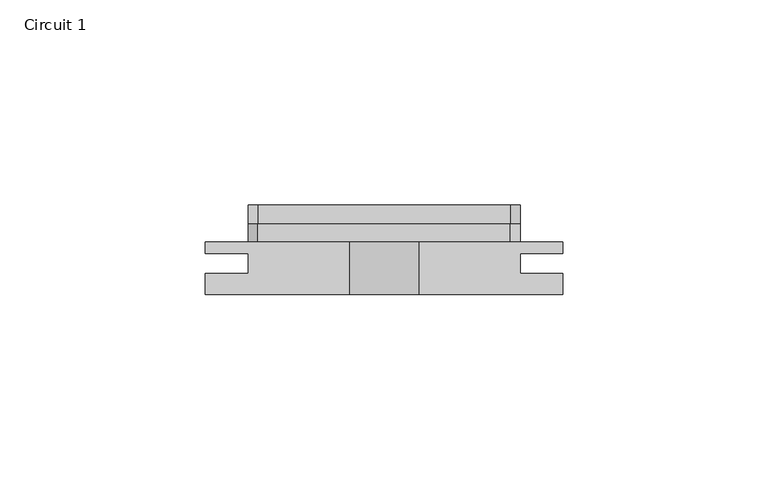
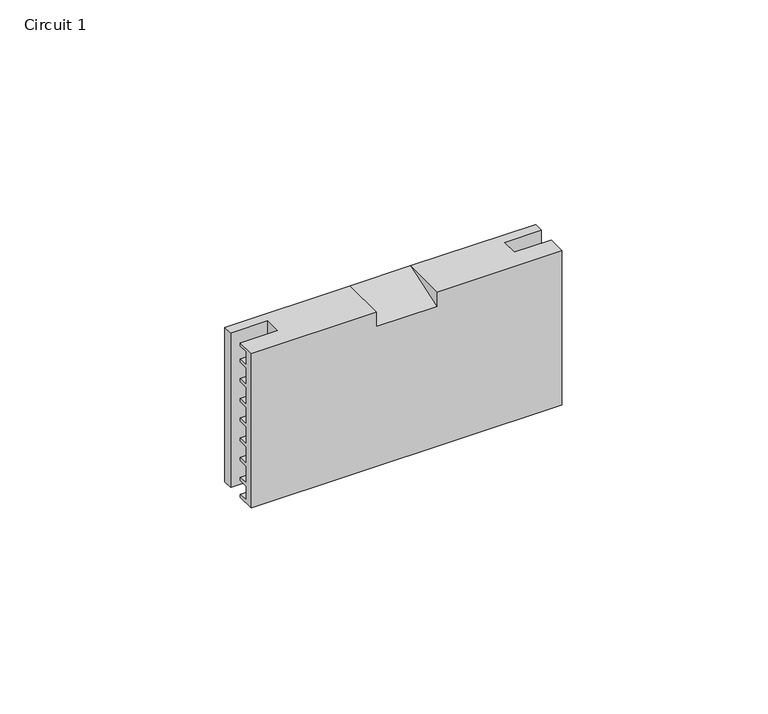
"""IFC4 building model written with IfcOpenShell, lengths in millimetres: furniture geometry, HON - Systems - Accelerate Duplex Receptacles : Circuit 1."""

from ifc_helpers import new_model, si_unit, frame, origin, place, context, project, spatial, polyline, circle_curve, faceted_brep, source, transform, mapped, element, save
from ifc_brep_helpers import plane_surface, cylinder_surface, revolved_surface, advanced_brep


def circuit_1_12633536(model_context):
    return source(origin(), model_context, "Body", "SolidModel", [
        faceted_brep([(43.4462126, 14.2112998, 675.3605936), (33.1343011, 14.2112998, 675.3605936), (33.1343011, 19.0372998, 675.3605936), (43.4462126, 19.0372998, 675.3605936), (43.4462126, 21.7928028, 675.3605936), (8.5470999, 21.7928028, 675.3605936), (8.5470999, 9.0804999, 675.3605936), (43.4462126, 9.0804999, 675.3605936), (-43.5229021, 9.0804999, 675.3605936), (-8.5217, 9.0804999, 675.3605936), (-8.5217, 21.7928028, 675.3605936), (-43.5229021, 21.7928028, 675.3605936), (-43.5229021, 19.0372998, 675.3605936), (-33.1343011, 19.0372998, 675.3605936), (-33.1343011, 14.2112998, 675.3605936), (-43.5229021, 14.2112998, 675.3605936), (43.4462126, 21.7928028, 629.6405645), (43.4462126, 19.0372998, 629.6405645), (33.1343011, 19.0372998, 629.6405645), (33.1343011, 14.2112998, 629.6405645), (43.4462126, 14.2112998, 629.6405645), (43.4462126, 9.0804999, 629.6405645), (-43.5229021, 9.0804999, 629.6405645), (-43.5229021, 14.2112998, 629.6405645), (-33.1343011, 14.2112998, 629.6405645), (-33.1343011, 19.0372998, 629.6405645), (-43.5229021, 19.0372998, 629.6405645), (-43.5229021, 21.7928028, 629.6405645), (8.5470999, 9.0804999, 670.9933456), (-8.5217, 9.0804999, 670.9933456), (-43.5229021, 14.2112998, 674.4716217), (-43.5229021, 11.3665005, 674.4716217), (-43.5229021, 11.3665005, 670.5980936), (-43.5229021, 14.2112998, 670.5980936), (-43.5229021, 14.2112998, 669.7091217), (-43.5229021, 11.3665005, 669.7091217), (-43.5229021, 11.3665005, 664.756081), (-43.5229021, 14.2112998, 664.756081), (-43.5229021, 14.2112998, 663.8671091), (-43.5229021, 11.3665005, 663.8671091), (-43.5229021, 11.3665005, 658.9140684), (-43.5229021, 14.2112998, 658.9140684), (-43.5229021, 14.2112998, 658.0250965), (-43.5229021, 11.3665005, 658.0250965), (-43.5229021, 11.3665005, 653.0721285), (-43.5229021, 14.2112998, 653.0721285), (-43.5229021, 14.2112998, 652.1830839), (-43.5229021, 11.3665005, 652.1830839), (-43.5229021, 11.3665005, 647.2301159), (-43.5229021, 14.2112998, 647.2301159), (-43.5229021, 14.2112998, 646.3410713), (-43.5229021, 11.3665005, 646.3410713), (-43.5229021, 11.3665005, 641.3881033), (-43.5229021, 14.2112998, 641.3881033), (-43.5229021, 14.2112998, 640.4991314), (-43.5229021, 11.3665005, 640.4991314), (-43.5229021, 11.3665005, 635.5460907), (-43.5229021, 14.2112998, 635.5460907), (-43.5229021, 14.2112998, 634.6571188), (-43.5229021, 11.3665005, 634.6571188), (-43.5229021, 11.3665005, 630.5296091), (-43.5229021, 14.2112998, 630.5296091), (43.4462126, 14.2112998, 630.5296091), (43.4462126, 11.3665005, 630.5296091), (43.4462126, 11.3665005, 634.6571188), (43.4462126, 14.2112998, 634.6571188), (43.4462126, 14.2112998, 635.5460907), (43.4462126, 11.3665005, 635.5460907), (43.4462126, 11.3665005, 640.4991314), (43.4462126, 14.2112998, 640.4991314), (43.4462126, 14.2112998, 641.3881033), (43.4462126, 11.3665005, 641.3881033), (43.4462126, 11.3665005, 646.3410713), (43.4462126, 14.2112998, 646.3410713), (43.4462126, 14.2112998, 647.2301159), (43.4462126, 11.3665005, 647.2301159), (43.4462126, 11.3665005, 652.1830839), (43.4462126, 14.2112998, 652.1830839), (43.4462126, 14.2112998, 653.0721285), (43.4462126, 11.3665005, 653.0721285), (43.4462126, 11.3665005, 658.0250965), (43.4462126, 14.2112998, 658.0250965), (43.4462126, 14.2112998, 658.9140684), (43.4462126, 11.3665005, 658.9140684), (43.4462126, 11.3665005, 663.8671091), (43.4462126, 14.2112998, 663.8671091), (43.4462126, 14.2112998, 664.756081), (43.4462126, 11.3665005, 664.756081), (43.4462126, 11.3665005, 669.7091217), (43.4462126, 14.2112998, 669.7091217), (43.4462126, 14.2112998, 670.5980936), (43.4462126, 11.3665005, 670.5980936), (43.4462126, 11.3665005, 674.4716217), (43.4462126, 14.2112998, 674.4716217), (33.1343011, 14.2112998, 630.5296091), (33.1343011, 14.2112998, 674.4716217), (33.1343011, 11.3665005, 674.4716217), (33.1343011, 11.3665005, 670.5980936), (33.1343011, 14.2112998, 670.5980936), (33.1343011, 14.2112998, 669.7091217), (33.1343011, 11.3665005, 669.7091217), (33.1343011, 11.3665005, 664.756081), (33.1343011, 14.2112998, 664.756081), (33.1343011, 14.2112998, 663.8671091), (33.1343011, 11.3665005, 663.8671091), (33.1343011, 11.3665005, 658.9140684), (33.1343011, 14.2112998, 658.9140684), (33.1343011, 14.2112998, 658.0250965), (33.1343011, 11.3665005, 658.0250965), (33.1343011, 11.3665005, 653.0721285), (33.1343011, 14.2112998, 653.0721285), (33.1343011, 14.2112998, 652.1830839), (33.1343011, 11.3665005, 652.1830839), (33.1343011, 11.3665005, 647.2301159), (33.1343011, 14.2112998, 647.2301159), (33.1343011, 14.2112998, 646.3410713), (33.1343011, 11.3665005, 646.3410713), (33.1343011, 11.3665005, 641.3881033), (33.1343011, 14.2112998, 641.3881033), (33.1343011, 14.2112998, 640.4991314), (33.1343011, 11.3665005, 640.4991314), (33.1343011, 11.3665005, 635.5460907), (33.1343011, 14.2112998, 635.5460907), (33.1343011, 14.2112998, 634.6571188), (33.1343011, 11.3665005, 634.6571188), (33.1343011, 11.3665005, 630.5296091), (-33.1343011, 14.2112998, 674.4716217), (-33.1343011, 14.2112998, 630.5296091), (-33.1343011, 11.3665005, 630.5296091), (-33.1343011, 11.3665005, 634.6571188), (-33.1343011, 14.2112998, 634.6571188), (-33.1343011, 14.2112998, 635.5460907), (-33.1343011, 11.3665005, 635.5460907), (-33.1343011, 11.3665005, 640.4991314), (-33.1343011, 14.2112998, 640.4991314), (-33.1343011, 14.2112998, 641.3881033), (-33.1343011, 11.3665005, 641.3881033), (-33.1343011, 11.3665005, 646.3410713), (-33.1343011, 14.2112998, 646.3410713), (-33.1343011, 14.2112998, 647.2301159), (-33.1343011, 11.3665005, 647.2301159), (-33.1343011, 11.3665005, 652.1830839), (-33.1343011, 14.2112998, 652.1830839), (-33.1343011, 14.2112998, 653.0721285), (-33.1343011, 11.3665005, 653.0721285), (-33.1343011, 11.3665005, 658.0250965), (-33.1343011, 14.2112998, 658.0250965), (-33.1343011, 14.2112998, 658.9140684), (-33.1343011, 11.3665005, 658.9140684), (-33.1343011, 11.3665005, 663.8671091), (-33.1343011, 14.2112998, 663.8671091), (-33.1343011, 14.2112998, 664.756081), (-33.1343011, 11.3665005, 664.756081), (-33.1343011, 11.3665005, 669.7091217), (-33.1343011, 14.2112998, 669.7091217), (-33.1343011, 14.2112998, 670.5980936), (-33.1343011, 11.3665005, 670.5980936), (-33.1343011, 11.3665005, 674.4716217)], [[[0, 1, 2, 3, 4, 5, 6, 7]], [[8, 9, 10, 11, 12, 13, 14, 15]], [[16, 17, 18, 19, 20, 21, 22, 23, 24, 25, 26, 27]], [[21, 7, 6, 28, 29, 9, 8, 22]], [[8, 15, 30, 31, 32, 33, 34, 35, 36, 37, 38, 39, 40, 41, 42, 43, 44, 45, 46, 47, 48, 49, 50, 51, 52, 53, 54, 55, 56, 57, 58, 59, 60, 61, 23, 22]], [[27, 26, 12, 11]], [[27, 11, 10, 5, 4, 16]], [[4, 3, 17, 16]], [[21, 20, 62, 63, 64, 65, 66, 67, 68, 69, 70, 71, 72, 73, 74, 75, 76, 77, 78, 79, 80, 81, 82, 83, 84, 85, 86, 87, 88, 89, 90, 91, 92, 93, 0, 7]], [[94, 19, 18, 2, 1, 95, 96, 97, 98, 99, 100, 101, 102, 103, 104, 105, 106, 107, 108, 109, 110, 111, 112, 113, 114, 115, 116, 117, 118, 119, 120, 121, 122, 123, 124, 125]], [[94, 62, 20, 19]], [[125, 63, 62, 94]], [[124, 64, 63, 125]], [[123, 65, 64, 124]], [[122, 66, 65, 123]], [[121, 67, 66, 122]], [[120, 68, 67, 121]], [[119, 69, 68, 120]], [[118, 70, 69, 119]], [[117, 71, 70, 118]], [[116, 72, 71, 117]], [[115, 73, 72, 116]], [[114, 74, 73, 115]], [[113, 75, 74, 114]], [[112, 76, 75, 113]], [[111, 77, 76, 112]], [[110, 78, 77, 111]], [[109, 79, 78, 110]], [[108, 80, 79, 109]], [[107, 81, 80, 108]], [[106, 82, 81, 107]], [[105, 83, 82, 106]], [[104, 84, 83, 105]], [[103, 85, 84, 104]], [[102, 86, 85, 103]], [[101, 87, 86, 102]], [[100, 88, 87, 101]], [[99, 89, 88, 100]], [[98, 90, 89, 99]], [[97, 91, 90, 98]], [[96, 92, 91, 97]], [[95, 93, 92, 96]], [[1, 0, 93, 95]], [[18, 17, 3, 2]], [[126, 14, 13, 25, 24, 127, 128, 129, 130, 131, 132, 133, 134, 135, 136, 137, 138, 139, 140, 141, 142, 143, 144, 145, 146, 147, 148, 149, 150, 151, 152, 153, 154, 155, 156, 157]], [[24, 23, 61, 127]], [[127, 61, 60, 128]], [[128, 60, 59, 129]], [[129, 59, 58, 130]], [[130, 58, 57, 131]], [[131, 57, 56, 132]], [[132, 56, 55, 133]], [[133, 55, 54, 134]], [[134, 54, 53, 135]], [[135, 53, 52, 136]], [[136, 52, 51, 137]], [[137, 51, 50, 138]], [[138, 50, 49, 139]], [[139, 49, 48, 140]], [[140, 48, 47, 141]], [[141, 47, 46, 142]], [[142, 46, 45, 143]], [[143, 45, 44, 144]], [[144, 44, 43, 145]], [[145, 43, 42, 146]], [[146, 42, 41, 147]], [[147, 41, 40, 148]], [[148, 40, 39, 149]], [[149, 39, 38, 150]], [[150, 38, 37, 151]], [[151, 37, 36, 152]], [[152, 36, 35, 153]], [[153, 35, 34, 154]], [[154, 34, 33, 155]], [[155, 33, 32, 156]], [[156, 32, 31, 157]], [[157, 31, 30, 126]], [[126, 30, 15, 14]], [[13, 12, 26, 25]], [[28, 6, 5]], [[10, 9, 29]], [[5, 10, 29, 28]]]),
        advanced_brep(
        [(33.1343011, 30.7975002, 635.4825976), (30.848301, 30.7975002, 633.1965975), (-30.8229006, 30.7975002, 633.1965975), (-33.1089007, 30.7975002, 635.4825976), (-33.1089007, 30.7975002, 663.4987972), (-30.8229006, 30.7975002, 665.7847973), (30.848301, 30.7975002, 665.7847973), (33.1343011, 30.7975002, 663.4987972), (-17.6657004, 30.7975002, 657.0218147), (-24.7777004, 30.7975002, 657.0218147), (-24.7777004, 30.7975002, 654.4817808), (-17.6657004, 30.7975002, 654.4817808), (-17.6657004, 30.7975002, 644.499614), (-26.555701, 30.7975002, 644.499614), (-26.555701, 30.7975002, 641.95958), (-17.6657004, 30.7975002, 641.95958), (20.4342996, 30.7975002, 644.499614), (11.5443001, 30.7975002, 644.499614), (11.5443001, 30.7975002, 641.95958), (20.4342996, 30.7975002, 641.95958), (20.4342996, 30.7975002, 657.0218147), (13.3222996, 30.7975002, 657.0218147), (13.3222996, 30.7975002, 654.4817808), (20.4342996, 30.7975002, 654.4817808), (-7.8486, 30.7975002, 646.9506998), (-7.8486, 30.7975002, 652.030695), (-10.3885999, 30.7975002, 652.030695), (-10.3885999, 30.7975002, 646.9506998), (30.3047409, 30.7975002, 646.9506998), (30.3047409, 30.7975002, 652.030695), (27.764741, 30.7975002, 652.030695), (27.764741, 30.7975002, 646.9506998), (6.5912997, 21.8097791, 629.6405645), (30.8165733, 21.8097791, 629.6405645), (33.1343011, 21.8097791, 631.9582923), (33.1343011, 21.8097791, 667.4901315), (30.7248429, 21.8097791, 669.8995897), (-30.7319642, 21.8097791, 669.8995897), (-33.1089007, 21.8097791, 667.5226532), (-33.1089007, 21.8097791, 631.9831462), (-30.766319, 21.8097791, 629.6405645), (-6.5658999, 21.8097791, 629.6405645), (-4.9148997, 21.8097791, 631.2916265), (4.9403002, 21.8097791, 631.2916265), (-17.6657004, 21.8097791, 657.0218147), (-17.6657004, 21.8097791, 654.4817808), (-24.7777004, 21.8097791, 654.4817808), (-24.7777004, 21.8097791, 657.0218147), (-17.6657004, 21.8097791, 644.499614), (-17.6657004, 21.8097791, 641.95958), (-26.555701, 21.8097791, 641.95958), (-26.555701, 21.8097791, 644.499614), (20.4342996, 21.8097791, 644.499614), (20.4342996, 21.8097791, 641.95958), (11.5443001, 21.8097791, 641.95958), (11.5443001, 21.8097791, 644.499614), (20.4342996, 21.8097791, 657.0218147), (20.4342996, 21.8097791, 654.4817808), (13.3222996, 21.8097791, 654.4817808), (13.3222996, 21.8097791, 657.0218147), (-7.8486, 21.8097791, 646.9506998), (-10.3885999, 21.8097791, 646.9506998), (-10.3885999, 21.8097791, 652.030695), (-7.8486, 21.8097791, 652.030695), (30.3047409, 21.8097791, 646.9506998), (27.764741, 21.8097791, 646.9506998), (27.764741, 21.8097791, 652.030695), (30.3047409, 21.8097791, 652.030695), (6.5912997, 26.2255, 629.6405645), (30.8165733, 26.2255, 629.6405645), (33.1343011, 26.2255, 631.9582923), (33.1343011, 26.2255, 635.4825976), (33.1343011, 26.2255, 663.4987972), (33.1343011, 26.2255, 667.4901315), (30.7248429, 26.2255, 669.8995897), (-30.7319642, 26.2255, 669.8995897), (-33.1089007, 26.2255, 667.5226532), (-33.1089007, 26.2255, 663.4987972), (-33.1089007, 26.2255, 635.4825976), (-33.1089007, 26.2255, 631.9831462), (-30.766319, 26.2255, 629.6405645), (-6.5658999, 26.2255, 629.6405645), (-4.9148997, 26.2255, 631.2916265), (4.9403002, 26.2255, 631.2916265), (30.848301, 26.2255, 665.7847973), (-30.8229006, 26.2255, 665.7847973), (-30.8229006, 26.2255, 633.1965975), (30.848301, 26.2255, 633.1965975)],
        [
            (0, 1, circle_curve(frame((30.848301, 30.7975002, 635.4825976), z_axis=(0.0, 1.0, 0.0), x_axis=(1.0, 0.0, 0.0)), 2.2860001)),
            (1, 2),
            (2, 3, circle_curve(frame((-30.8229006, 30.7975002, 635.4825976), z_axis=(0.0, 1.0, 0.0), x_axis=(1.0, 0.0, 0.0)), 2.2860001)),
            (3, 4),
            (4, 5, circle_curve(frame((-30.8229006, 30.7975002, 663.4987972), z_axis=(0.0, 1.0, 0.0), x_axis=(1.0, 0.0, 0.0)), 2.2860001)),
            (5, 6),
            (6, 7, circle_curve(frame((30.848301, 30.7975002, 663.4987972), z_axis=(0.0, 1.0, 0.0), x_axis=(1.0, 0.0, 0.0)), 2.2860001)),
            (7, 0),
            (8, 9),
            (9, 10),
            (10, 11),
            (11, 8),
            (12, 13),
            (13, 14),
            (14, 15),
            (15, 12),
            (16, 17),
            (17, 18),
            (18, 19),
            (19, 16),
            (20, 21),
            (21, 22),
            (22, 23),
            (23, 20),
            (24, 25),
            (25, 26),
            (26, 27, circle_curve(frame((-10.3885999, 30.7975002, 649.4906974), z_axis=(0.0, -1.0, 0.0), x_axis=(1.0, 0.0, 0.0)), 2.5399976)),
            (27, 24),
            (28, 29),
            (29, 30),
            (30, 31, circle_curve(frame((27.764741, 30.7975002, 649.4906974), z_axis=(0.0, -1.0, 0.0), x_axis=(1.0, 0.0, 0.0)), 2.5399976)),
            (31, 28),
            (32, 33),
            (33, 34, circle_curve(frame((30.8165733, 21.8097791, 631.9582923), z_axis=(0.0, -1.0, 0.0), x_axis=(1.0, 0.0, 0.0)), 2.3177278)),
            (34, 35),
            (35, 36, circle_curve(frame((30.7248429, 21.8097791, 667.4901315), z_axis=(0.0, -1.0, 0.0), x_axis=(1.0, 0.0, 0.0)), 2.4094582)),
            (36, 37),
            (37, 38, circle_curve(frame((-30.7319642, 21.8097791, 667.5226532), z_axis=(0.0, -1.0, 0.0), x_axis=(1.0, 0.0, 0.0)), 2.3769365)),
            (38, 39),
            (39, 40, circle_curve(frame((-30.766319, 21.8097791, 631.9831462), z_axis=(0.0, -1.0, 0.0), x_axis=(1.0, 0.0, 0.0)), 2.3425817)),
            (40, 41),
            (41, 42),
            (42, 43),
            (43, 32),
            (44, 45),
            (45, 46),
            (46, 47),
            (47, 44),
            (48, 49),
            (49, 50),
            (50, 51),
            (51, 48),
            (52, 53),
            (53, 54),
            (54, 55),
            (55, 52),
            (56, 57),
            (57, 58),
            (58, 59),
            (59, 56),
            (60, 61),
            (61, 62, circle_curve(frame((-10.3885999, 21.8097791, 649.4906974), z_axis=(0.0, 1.0, 0.0), x_axis=(1.0, 0.0, 0.0)), 2.5399976)),
            (62, 63),
            (63, 60),
            (64, 65),
            (65, 66, circle_curve(frame((27.764741, 21.8097791, 649.4906974), z_axis=(0.0, 1.0, 0.0), x_axis=(1.0, 0.0, 0.0)), 2.5399976)),
            (66, 67),
            (67, 64),
            (32, 68),
            (68, 69),
            (69, 33),
            (69, 70, circle_curve(frame((30.8165733, 26.2255, 631.9582923), z_axis=(0.0, -1.0, 0.0), x_axis=(1.0, 0.0, 0.0)), 2.3177278)),
            (70, 34),
            (70, 71),
            (71, 0),
            (7, 72),
            (72, 73),
            (73, 35),
            (73, 74, circle_curve(frame((30.7248429, 26.2255, 667.4901315), z_axis=(0.0, -1.0, 0.0), x_axis=(1.0, 0.0, 0.0)), 2.4094582)),
            (74, 36),
            (74, 75),
            (75, 37),
            (75, 76, circle_curve(frame((-30.7319642, 26.2255, 667.5226532), z_axis=(0.0, -1.0, 0.0), x_axis=(1.0, 0.0, 0.0)), 2.3769365)),
            (76, 38),
            (76, 77),
            (77, 4),
            (3, 78),
            (78, 79),
            (79, 39),
            (79, 80, circle_curve(frame((-30.766319, 26.2255, 631.9831462), z_axis=(0.0, -1.0, 0.0), x_axis=(1.0, 0.0, 0.0)), 2.3425817)),
            (80, 40),
            (80, 81),
            (81, 41),
            (81, 82),
            (82, 42),
            (82, 83),
            (83, 43),
            (83, 68),
            (11, 45),
            (44, 8),
            (10, 46),
            (9, 47),
            (15, 49),
            (48, 12),
            (14, 50),
            (13, 51),
            (19, 53),
            (52, 16),
            (18, 54),
            (17, 55),
            (23, 57),
            (56, 20),
            (22, 58),
            (21, 59),
            (27, 61),
            (60, 24),
            (26, 62),
            (25, 63),
            (31, 65),
            (64, 28),
            (30, 66),
            (29, 67),
            (84, 85),
            (85, 77, circle_curve(frame((-30.8229006, 26.2255, 663.4987972), z_axis=(0.0, -1.0, 0.0), x_axis=(1.0, 0.0, 0.0)), 2.2860001)),
            (72, 84, circle_curve(frame((30.848301, 26.2255, 663.4987972), z_axis=(0.0, -1.0, 0.0), x_axis=(1.0, 0.0, 0.0)), 2.2860001)),
            (86, 87),
            (87, 71, circle_curve(frame((30.848301, 26.2255, 635.4825976), z_axis=(0.0, -1.0, 0.0), x_axis=(1.0, 0.0, 0.0)), 2.2860001)),
            (78, 86, circle_curve(frame((-30.8229006, 26.2255, 635.4825976), z_axis=(0.0, -1.0, 0.0), x_axis=(1.0, 0.0, 0.0)), 2.2860001)),
            (6, 84),
            (85, 5),
            (2, 86),
            (87, 1),
        ],
        [
            plane_surface(frame((30.848301, 30.7975002, 629.6405645), z_axis=(0.0, 1.0, 0.0), x_axis=(1.0, 0.0, 0.0))),
            plane_surface(frame((30.848301, 21.8097791, 629.6405645), z_axis=(0.0, -1.0, 0.0), x_axis=(-1.0, 0.0, 0.0))),
            plane_surface(frame((6.5912997, 30.7975002, 629.6405645), z_axis=(0.0, 0.0, -1.0), x_axis=(0.0, -1.0, 0.0))),
            cylinder_surface(frame((30.8165733, 21.8097791, 631.9582923), z_axis=(0.0, 1.0, 0.0), x_axis=(1.0, 0.0, 0.0)), 2.3177278),
            plane_surface(frame((33.1343011, 30.7975002, 631.9582923), z_axis=(1.0, 0.0, 0.0), x_axis=(0.0, -1.0, 0.0))),
            cylinder_surface(frame((30.7248429, 21.8097791, 667.4901315), z_axis=(0.0, 1.0, 0.0), x_axis=(1.0, 0.0, 0.0)), 2.4094582),
            plane_surface(frame((30.7248429, 30.7975002, 669.8995897), z_axis=(0.0, 0.0, 1.0), x_axis=(0.0, -1.0, 0.0))),
            cylinder_surface(frame((-30.7319642, 21.8097791, 667.5226532), z_axis=(0.0, 1.0, 0.0), x_axis=(1.0, 0.0, 0.0)), 2.3769365),
            plane_surface(frame((-33.1089007, 30.7975002, 667.5226532), z_axis=(-1.0, 0.0, 0.0), x_axis=(0.0, -1.0, 0.0))),
            cylinder_surface(frame((-30.766319, 21.8097791, 631.9831462), z_axis=(0.0, 1.0, 0.0), x_axis=(1.0, 0.0, 0.0)), 2.3425817),
            plane_surface(frame((-30.766319, 30.7975002, 629.6405645), z_axis=(0.0, 0.0, -1.0), x_axis=(0.0, -1.0, 0.0))),
            plane_surface(frame((-6.5658999, 30.7975002, 629.6405645), z_axis=(0.7071200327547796, 0.0, -0.7070935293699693), x_axis=(0.0, -1.0, 0.0))),
            plane_surface(frame((-4.9148997, 30.7975002, 631.2916265), z_axis=(0.0, 0.0, -1.0), x_axis=(0.0, -1.0, 0.0))),
            plane_surface(frame((4.9403002, 30.7975002, 631.2916265), z_axis=(-0.7071201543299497, 0.0, -0.7070934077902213), x_axis=(0.0, -1.0, 0.0))),
            plane_surface(frame((-17.6657004, 30.7975002, 657.0218147), z_axis=(-1.0, 0.0, 0.0), x_axis=(0.0, -1.0, 0.0))),
            plane_surface(frame((-17.6657004, 30.7975002, 654.4817808), z_axis=(0.0, 0.0, 1.0), x_axis=(0.0, -1.0, 0.0))),
            plane_surface(frame((-24.7777004, 30.7975002, 654.4817808), z_axis=(1.0, 0.0, 0.0), x_axis=(0.0, -1.0, 0.0))),
            plane_surface(frame((-24.7777004, 30.7975002, 657.0218147), z_axis=(0.0, 0.0, -1.0), x_axis=(0.0, -1.0, 0.0))),
            plane_surface(frame((-17.6657004, 30.7975002, 644.499614), z_axis=(-1.0, 0.0, 0.0), x_axis=(0.0, -1.0, 0.0))),
            plane_surface(frame((-17.6657004, 30.7975002, 641.95958), z_axis=(0.0, 0.0, 1.0), x_axis=(0.0, -1.0, 0.0))),
            plane_surface(frame((-26.555701, 30.7975002, 641.95958), z_axis=(1.0, 0.0, 0.0), x_axis=(0.0, -1.0, 0.0))),
            plane_surface(frame((-26.555701, 30.7975002, 644.499614), z_axis=(0.0, 0.0, -1.0), x_axis=(0.0, -1.0, 0.0))),
            plane_surface(frame((20.4342996, 30.7975002, 644.499614), z_axis=(-1.0, 0.0, 0.0), x_axis=(0.0, -1.0, 0.0))),
            plane_surface(frame((20.4342996, 30.7975002, 641.95958), z_axis=(0.0, 0.0, 1.0), x_axis=(0.0, -1.0, 0.0))),
            plane_surface(frame((11.5443001, 30.7975002, 641.95958), z_axis=(1.0, 0.0, 0.0), x_axis=(0.0, -1.0, 0.0))),
            plane_surface(frame((11.5443001, 30.7975002, 644.499614), z_axis=(0.0, 0.0, -1.0), x_axis=(0.0, -1.0, 0.0))),
            plane_surface(frame((20.4342996, 30.7975002, 657.0218147), z_axis=(-1.0, 0.0, 0.0), x_axis=(0.0, -1.0, 0.0))),
            plane_surface(frame((20.4342996, 30.7975002, 654.4817808), z_axis=(0.0, 0.0, 1.0), x_axis=(0.0, -1.0, 0.0))),
            plane_surface(frame((13.3222996, 30.7975002, 654.4817808), z_axis=(1.0, 0.0, 0.0), x_axis=(0.0, -1.0, 0.0))),
            plane_surface(frame((13.3222996, 30.7975002, 657.0218147), z_axis=(0.0, 0.0, -1.0), x_axis=(0.0, -1.0, 0.0))),
            plane_surface(frame((-7.8486, 30.7975002, 646.9506998), z_axis=(0.0, 0.0, 1.0), x_axis=(0.0, -1.0, 0.0))),
            revolved_surface(polyline([(-7.848602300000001, 21.8097791, 649.4906974), (-7.848602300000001, 30.7975002, 649.4906974)]), (-10.3885999, 0.0, 649.4906974), (0.0, -1.0, 0.0)),
            plane_surface(frame((-10.3885999, 30.7975002, 652.030695), z_axis=(0.0, 0.0, -1.0), x_axis=(0.0, -1.0, 0.0))),
            plane_surface(frame((-7.8486, 30.7975002, 652.030695), z_axis=(-1.0, 0.0, 0.0), x_axis=(0.0, -1.0, 0.0))),
            plane_surface(frame((30.3047409, 30.7975002, 646.9506998), z_axis=(0.0, 0.0, 1.0), x_axis=(0.0, -1.0, 0.0))),
            revolved_surface(polyline([(30.3047386, 21.8097791, 649.4906974), (30.3047386, 30.7975002, 649.4906974)]), (27.764741, 0.0, 649.4906974), (0.0, -1.0, 0.0)),
            plane_surface(frame((27.764741, 30.7975002, 652.030695), z_axis=(0.0, 0.0, -1.0), x_axis=(0.0, -1.0, 0.0))),
            plane_surface(frame((30.3047409, 30.7975002, 652.030695), z_axis=(-1.0, 0.0, 0.0), x_axis=(0.0, -1.0, 0.0))),
            plane_surface(frame((33.1343011, 26.2255, 663.4987972), z_axis=(0.0, 1.0, 0.0), x_axis=(0.0, 0.0, 1.0))),
            cylinder_surface(frame((30.848301, 26.2255, 663.4987972), z_axis=(0.0, -1.0, 0.0), x_axis=(1.0, 0.0, 0.0)), 2.2860001),
            cylinder_surface(frame((-30.8229006, 26.2255, 663.4987972), z_axis=(0.0, -1.0, 0.0), x_axis=(1.0, 0.0, 0.0)), 2.2860001),
            plane_surface(frame((-30.8229006, 45.0298289, 665.7847973), z_axis=(0.0, 0.0, 1.0), x_axis=(0.0, -1.0, 0.0))),
            cylinder_surface(frame((-30.8229006, 0.0, 635.4825976), z_axis=(0.0, -1.0, 0.0), x_axis=(1.0, 0.0, 0.0)), 2.2860001),
            cylinder_surface(frame((30.848301, 0.0, 635.4825976), z_axis=(0.0, -1.0, 0.0), x_axis=(1.0, 0.0, 0.0)), 2.2860001),
            plane_surface(frame((30.848301, 45.0298289, 633.1965975), z_axis=(0.0, 0.0, -1.0), x_axis=(0.0, -1.0, 0.0))),
        ],
        [
            (0, [[1, 2, 3, 4, 5, 6, 7, 8], [9, 10, 11, 12], [13, 14, 15, 16], [17, 18, 19, 20], [21, 22, 23, 24], [25, 26, 27, 28], [29, 30, 31, 32]]),
            (1, [[33, 34, 35, 36, 37, 38, 39, 40, 41, 42, 43, 44], [45, 46, 47, 48], [49, 50, 51, 52], [53, 54, 55, 56], [57, 58, 59, 60], [61, 62, 63, 64], [65, 66, 67, 68]]),
            (2, [[69, 70, 71, -33]]),
            (3, [[-71, 72, 73, -34]]),
            (4, [[-73, 74, 75, -8, 76, 77, 78, -35]]),
            (5, [[-78, 79, 80, -36]]),
            (6, [[-80, 81, 82, -37]]),
            (7, [[-82, 83, 84, -38]]),
            (8, [[-84, 85, 86, -4, 87, 88, 89, -39]]),
            (9, [[-89, 90, 91, -40]]),
            (10, [[-91, 92, 93, -41]]),
            (11, [[-93, 94, 95, -42]]),
            (12, [[-95, 96, 97, -43]]),
            (13, [[-97, 98, -69, -44]]),
            (14, [[99, -45, 100, -12]]),
            (15, [[101, -46, -99, -11]]),
            (16, [[102, -47, -101, -10]]),
            (17, [[-100, -48, -102, -9]]),
            (18, [[103, -49, 104, -16]]),
            (19, [[105, -50, -103, -15]]),
            (20, [[106, -51, -105, -14]]),
            (21, [[-104, -52, -106, -13]]),
            (22, [[107, -53, 108, -20]]),
            (23, [[109, -54, -107, -19]]),
            (24, [[110, -55, -109, -18]]),
            (25, [[-108, -56, -110, -17]]),
            (26, [[111, -57, 112, -24]]),
            (27, [[113, -58, -111, -23]]),
            (28, [[114, -59, -113, -22]]),
            (29, [[-112, -60, -114, -21]]),
            (30, [[115, -61, 116, -28]]),
            (31, [[117, -62, -115, -27]]),
            (32, [[118, -63, -117, -26]]),
            (33, [[-116, -64, -118, -25]]),
            (34, [[119, -65, 120, -32]]),
            (35, [[121, -66, -119, -31]]),
            (36, [[122, -67, -121, -30]]),
            (37, [[-120, -68, -122, -29]]),
            (38, [[123, 124, -85, -83, -81, -79, -77, 125]]),
            (38, [[126, 127, -74, -72, -70, -98, -96, -94, -92, -90, -88, 128]]),
            (39, [[-76, -7, 129, -125]]),
            (40, [[130, -5, -86, -124]]),
            (41, [[-129, -6, -130, -123]]),
            (42, [[-87, -3, 131, -128]]),
            (43, [[132, -1, -75, -127]]),
            (44, [[-131, -2, -132, -126]]),
        ],
    ),
    ])


if __name__ == "__main__":
    model = new_model("IFC4")
    model_context = context("Model", 3, world=origin())
    ifc_project = project(units=[si_unit("LENGTHUNIT", "METRE", prefix="MILLI")], contexts=[model_context])
    site = spatial("IfcSite", under=ifc_project)
    building = spatial("IfcBuilding", under=site)
    placement = place(None, origin())
    circuit_1_shape = circuit_1_12633536(model_context)
    element("IfcFurniture", 1, ObjectType="HON - Systems - Accelerate Duplex Receptacles : Circuit 1", at=placement, inside=building, context=model_context, shape_type="MappedRepresentation", body=[
        mapped(circuit_1_shape, transform((0.0, 0.0, 0.0), x_axis=(1.0, 0.0, 0.0), y_axis=(0.0, 1.0, 0.0), z_axis=(0.0, 0.0, 1.0))),
    ])
    save(model, "model.ifc")
